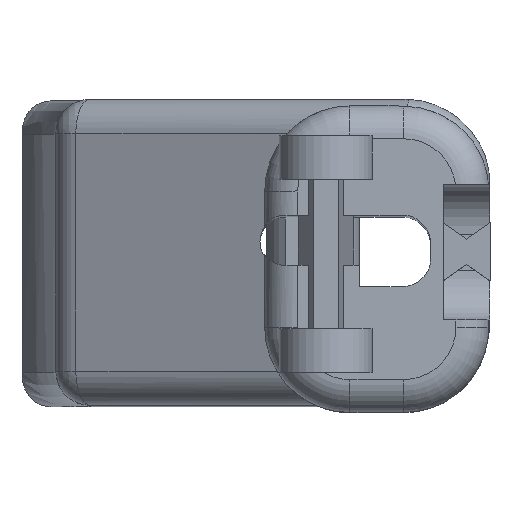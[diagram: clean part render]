
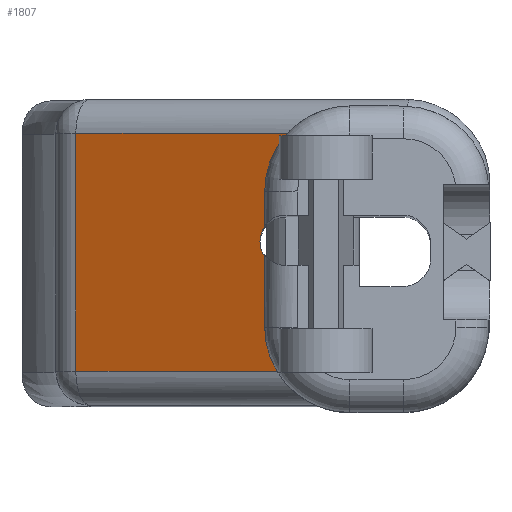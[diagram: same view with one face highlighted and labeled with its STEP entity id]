
A CAD part, top view. The second image highlights one B-rep face of the part: STEP entity #1807.
In plain terms, the highlighted planar face has unit normal (-0.412, 0, 0.911).
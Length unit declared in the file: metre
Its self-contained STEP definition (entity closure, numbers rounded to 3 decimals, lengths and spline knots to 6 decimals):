
#20=ELLIPSE('',#1923,0.001659,0.001512);
#21=ELLIPSE('',#1925,0.005608,0.005109);
#22=ELLIPSE('',#1929,0.005608,0.005109);
#23=ELLIPSE('',#1965,0.001616,0.001473);
#44=PLANE('',#1964);
#447=ORIENTED_EDGE('',*,*,#908,.F.);
#448=ORIENTED_EDGE('',*,*,#838,.T.);
#449=ORIENTED_EDGE('',*,*,#853,.T.);
#450=ORIENTED_EDGE('',*,*,#904,.T.);
#451=ORIENTED_EDGE('',*,*,#909,.T.);
#452=ORIENTED_EDGE('',*,*,#888,.T.);
#453=ORIENTED_EDGE('',*,*,#860,.T.);
#454=ORIENTED_EDGE('',*,*,#841,.T.);
#455=ORIENTED_EDGE('',*,*,#852,.F.);
#838=EDGE_CURVE('',#1094,#1095,#1255,.T.);
#841=EDGE_CURVE('',#1098,#1097,#1258,.T.);
#852=EDGE_CURVE('',#1103,#1097,#20,.F.);
#853=EDGE_CURVE('',#1095,#1104,#21,.T.);
#860=EDGE_CURVE('',#1110,#1098,#22,.T.);
#888=EDGE_CURVE('',#1124,#1110,#1278,.F.);
#904=EDGE_CURVE('',#1104,#1133,#1287,.F.);
#908=EDGE_CURVE('',#1094,#1103,#23,.F.);
#909=EDGE_CURVE('',#1133,#1124,#1289,.T.);
#1094=VERTEX_POINT('',#2795);
#1095=VERTEX_POINT('',#2798);
#1097=VERTEX_POINT('',#2804);
#1098=VERTEX_POINT('',#2806);
#1103=VERTEX_POINT('',#2832);
#1104=VERTEX_POINT('',#2836);
#1110=VERTEX_POINT('',#2854);
#1124=VERTEX_POINT('',#2935);
#1133=VERTEX_POINT('',#2982);
#1255=LINE('',#2799,#1424);
#1258=LINE('',#2805,#1427);
#1278=LINE('',#2934,#1447);
#1287=LINE('',#2983,#1456);
#1289=LINE('',#3001,#1458);
#1424=VECTOR('',#2199,1.);
#1427=VECTOR('',#2204,1.);
#1447=VECTOR('',#2294,1.);
#1456=VECTOR('',#2321,1.);
#1458=VECTOR('',#2333,1.);
#1564=EDGE_LOOP('',(#447,#448,#449,#450,#451,#452,#453,#454,#455));
#1671=FACE_BOUND('',#1564,.T.);
#1807=ADVANCED_FACE('',(#1671),#44,.F.);
#1923=AXIS2_PLACEMENT_3D('',#2833,#2222,#2223);
#1925=AXIS2_PLACEMENT_3D('',#2835,#2226,#2227);
#1929=AXIS2_PLACEMENT_3D('',#2853,#2237,#2238);
#1964=AXIS2_PLACEMENT_3D('',#2999,#2329,#2330);
#1965=AXIS2_PLACEMENT_3D('',#3000,#2331,#2332);
#2199=DIRECTION('',(0.,1.,0.));
#2204=DIRECTION('',(0.,1.,0.));
#2222=DIRECTION('',(0.412,0.,-0.911));
#2223=DIRECTION('',(0.911,0.,0.412));
#2226=DIRECTION('',(0.412,0.,-0.911));
#2227=DIRECTION('',(-0.911,0.,-0.412));
#2237=DIRECTION('',(0.412,0.,-0.911));
#2238=DIRECTION('',(-0.911,0.,-0.412));
#2294=DIRECTION('',(-0.911,0.,-0.412));
#2321=DIRECTION('',(0.911,0.,0.412));
#2329=DIRECTION('',(0.412,0.,-0.911));
#2330=DIRECTION('',(-0.911,0.,-0.412));
#2331=DIRECTION('',(0.412,0.,-0.911));
#2332=DIRECTION('',(-0.911,0.,-0.412));
#2333=DIRECTION('',(0.,-1.,0.));
#2795=CARTESIAN_POINT('',(0.020094,-0.024793,0.072046));
#2798=CARTESIAN_POINT('',(0.020094,-0.022704,0.072046));
#2799=CARTESIAN_POINT('',(0.020094,-0.026799,0.072046));
#2804=CARTESIAN_POINT('',(0.020094,-0.026638,0.072046));
#2805=CARTESIAN_POINT('',(0.020094,-0.026799,0.072046));
#2806=CARTESIAN_POINT('',(0.020094,-0.030895,0.072046));
#2832=CARTESIAN_POINT('',(0.019874,-0.025282,0.071946));
#2833=CARTESIAN_POINT('',(0.021313,-0.025744,0.072597));
#2835=CARTESIAN_POINT('',(0.025203,-0.022704,0.074357));
#2836=CARTESIAN_POINT('',(0.02146,-0.019227,0.072663));
#2853=CARTESIAN_POINT('',(0.025203,-0.030895,0.074357));
#2854=CARTESIAN_POINT('',(0.020815,-0.03351,0.072372));
#2934=CARTESIAN_POINT('',(0.01242,-0.03351,0.068573));
#2935=CARTESIAN_POINT('',(0.008743,-0.03351,0.06691));
#2982=CARTESIAN_POINT('',(0.008743,-0.019227,0.06691));
#2983=CARTESIAN_POINT('',(0.01242,-0.019227,0.068573));
#2999=CARTESIAN_POINT('',(0.01242,-0.045981,0.068573));
#3000=CARTESIAN_POINT('',(0.021304,-0.025634,0.072593));
#3001=CARTESIAN_POINT('',(0.008743,-0.03351,0.06691));
